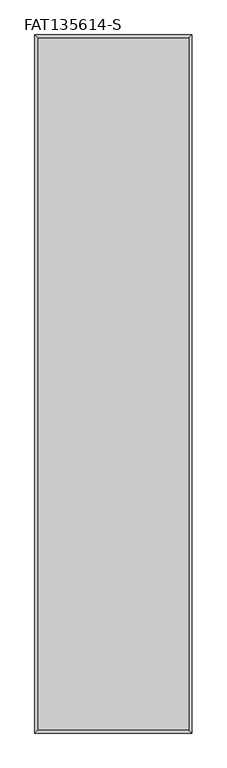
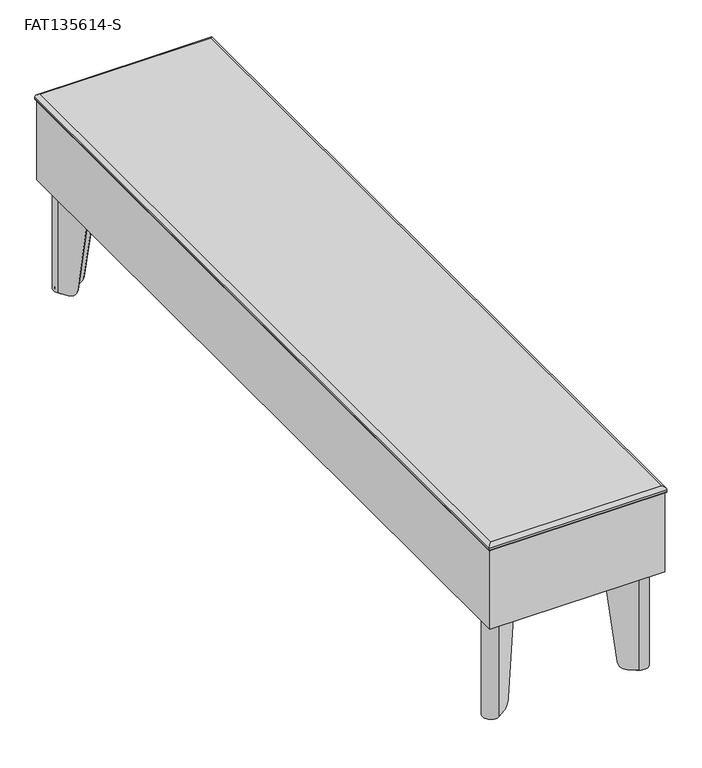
"""IFC4 building model written with IfcOpenShell, lengths in millimetres: furniture geometry, Stance_HC-Flora-Table_Straight : FAT135614-S."""

from ifc_helpers import new_model, si_unit, point, frame, frame_2d, origin, origin_with_axes, place, context, project, spatial, polyline, circle_curve, ellipse_curve, trimmed, segment, composite_curve, outline, extrude, source, transform, mapped, element, save
from ifc_brep_helpers import plane_surface, cylinder_surface, revolved_surface, advanced_brep


def fat135614_s_ff9385a6(model_context):
    return source(origin(), model_context, "Body", "SolidModel", [
        extrude(outline(composite_curve([segment(polyline([(274.1779251, -48.593371), (287.4828248, -39.2771437)]), True, "CONTINUOUS"), segment(trimmed(circle_curve(frame_2d((294.1333442, -48.7750329)), 11.5947965), [point((287.4828248, -39.2771437))], [point((303.6312333, -55.4255523))], False, "CARTESIAN"), True, "CONTINUOUS"), segment(polyline([(303.6312333, -55.4255523), (294.315006, -68.730452), (274.1779251, -48.593371)]), True, "CONTINUOUS")], self_intersect=False)), frame((0.0, 0.0, 3.175), z_axis=(0.0, 0.0, 1.0), x_axis=(1.0, 0.0, 0.0)), (0.0, 0.0, 1.0), 3.3792927),
        advanced_brep(
        [(274.3401042, -102.8613619, 193.6877233), (306.2642107, -57.26919, 193.6877233), (285.6391871, -36.6441664, 193.6877233), (240.0470178, -68.568271, 193.6877233), (241.8906556, -71.2012484, 193.6877233), (287.4828248, -39.2771437, 193.6877233), (303.6312333, -55.4255523, 193.6877233), (271.7071268, -101.0177242, 193.6877233), (274.3401042, -102.8613619, 189.1419595), (303.6312333, -55.4255523, 3.1876992), (293.5105238, -69.8793673, 3.1876992), (284.3334277, -82.9855678, 17.1280233), (287.4828248, -39.2771437, 3.1876992), (259.9228092, -58.5749494, 17.1280233), (273.0290098, -49.3978533, 3.1876992), (240.0470178, -68.568271, 189.1419334), (285.6391871, -36.6441664, 3.1876992), (270.7211121, -47.0899556, 3.1876992), (257.6149115, -56.2670517, 17.1280233), (306.2642107, -57.26919, 3.1876992), (286.6413254, -85.2934656, 17.1280233), (295.8184215, -72.187265, 3.1876992)],
        [
            (0, 1),
            (1, 2, circle_curve(frame((294.1333442, -48.7750329, 193.6877233), z_axis=(0.0, 0.0, 1.0), x_axis=(-1.0, 0.0, 0.0)), 14.8090724)),
            (2, 3),
            (3, 4),
            (4, 5),
            (5, 6, circle_curve(frame((294.1333442, -48.7750329, 193.6877233), z_axis=(0.0, 0.0, -1.0), x_axis=(-1.0, 0.0, 0.0)), 11.5947965)),
            (6, 7),
            (7, 0),
            (7, 8),
            (8, 0),
            (6, 9),
            (9, 10),
            (10, 11, ellipse_curve(frame((293.5105238, -69.8793673, 19.0626992), z_axis=(-0.8191509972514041, 0.5735779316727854, 0.0), x_axis=(-0.5735779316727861, -0.8191509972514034, 0.0)), 16.1198923, 15.875)),
            (11, 7),
            (5, 12),
            (12, 9, circle_curve(frame((294.1333442, -48.7750329, 3.1876992), z_axis=(0.0, 0.0, -1.0), x_axis=(-1.0, 0.0, 0.0)), 11.5947965)),
            (4, 13),
            (13, 14, ellipse_curve(frame((273.0290098, -49.3978533, 19.0626992), z_axis=(0.5735779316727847, -0.8191509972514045, 0.0), x_axis=(0.8191509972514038, 0.5735779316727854, 0.0)), 16.1198923, 15.875)),
            (14, 12),
            (3, 15),
            (15, 4),
            (2, 16),
            (16, 17),
            (17, 18, ellipse_curve(frame((270.7211121, -47.0899556, 19.0626992), z_axis=(-0.5735779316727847, 0.8191509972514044, 0.0), x_axis=(0.8191509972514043, 0.573577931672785, 0.0)), 16.1198923, 15.875)),
            (18, 15),
            (1, 19),
            (19, 16, circle_curve(frame((294.1333442, -48.7750329, 3.1876992), z_axis=(0.0, 0.0, 1.0), x_axis=(-1.0, 0.0, 0.0)), 14.8090724)),
            (8, 20),
            (20, 21, ellipse_curve(frame((295.8184215, -72.187265, 19.0626992), z_axis=(0.8191509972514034, -0.5735779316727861, 0.0), x_axis=(-0.5735779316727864, -0.8191509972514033, 0.0)), 16.1198923, 15.875)),
            (21, 19),
            (18, 13),
            (11, 20),
            (21, 10),
            (14, 17),
        ],
        [
            plane_surface(frame((271.7071268, -101.0177242, 193.6877233), z_axis=(0.0, 0.0, 1.0000000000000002), x_axis=(-0.8191509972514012, 0.5735779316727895, 0.0))),
            plane_surface(frame((274.3401042, -102.8613619, 193.6877233), z_axis=(-0.5735779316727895, -0.8191509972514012, 0.0), x_axis=(0.0, 0.0, -1.0))),
            plane_surface(frame((271.7071268, -101.0177242, 193.6877233), z_axis=(-0.8191509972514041, 0.5735779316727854, 0.0), x_axis=(0.0, 0.0, -1.0))),
            revolved_surface(polyline([(282.53854770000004, -48.7750329, 3.1876992), (282.53854770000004, -48.7750329, 193.6877233)]), (294.1333442, -48.7750329, 0.0), (0.0, 0.0, -1.0)),
            plane_surface(frame((287.4828248, -39.2771437, 193.6877233), z_axis=(0.5735779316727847, -0.8191509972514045, 0.0), x_axis=(0.0, 0.0, -1.0))),
            plane_surface(frame((241.8906556, -71.2012484, 193.6877233), z_axis=(-0.8191509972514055, -0.5735779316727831, 0.0), x_axis=(0.0, 0.0, -1.0))),
            plane_surface(frame((240.0470178, -68.568271, 193.6877233), z_axis=(-0.5735779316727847, 0.8191509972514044, 0.0), x_axis=(0.0, 0.0, -1.0))),
            cylinder_surface(frame((294.1333442, -48.7750329, 0.0), z_axis=(0.0, 0.0, 1.0), x_axis=(-1.0, 0.0, 0.0)), 14.8090724),
            plane_surface(frame((306.2642107, -57.26919, 193.6877233), z_axis=(0.8191509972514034, -0.5735779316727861, 0.0), x_axis=(0.0, 0.0, -1.0))),
            plane_surface(frame((251.7311084, -50.3832485, 17.1280233), z_axis=(-0.7018361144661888, -0.7018361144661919, -0.12186934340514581), x_axis=(0.7071067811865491, -0.707106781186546, 0.0))),
            plane_surface(frame((284.2214639, -17.8928931, 3.1876992), z_axis=(0.0, 0.0, -1.0), x_axis=(0.707106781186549, -0.707106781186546, 0.0))),
            cylinder_surface(frame((303.6583998, -80.0272433, 19.0626992), z_axis=(0.7071067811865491, -0.707106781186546, 0.0), x_axis=(-0.707106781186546, -0.7071067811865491, 0.0)), 15.875),
        ],
        [
            (0, [[1, 2, 3, 4, 5, 6, 7, 8]]),
            (1, [[9, 10, -8]]),
            (2, [[11, 12, 13, 14, -7]]),
            (3, [[15, 16, -11, -6]]),
            (4, [[17, 18, 19, -15, -5]]),
            (5, [[20, 21, -4]]),
            (6, [[22, 23, 24, 25, -20, -3]]),
            (7, [[26, 27, -22, -2]]),
            (8, [[-10, 28, 29, 30, -26, -1]]),
            (9, [[-17, -21, -25, 31]]),
            (9, [[-28, -9, -14, 32]]),
            (10, [[-23, -27, -30, 33, -12, -16, -19, 34]]),
            (11, [[-13, -33, -29, -32]]),
            (11, [[-24, -34, -18, -31]]),
        ],
    ),
        extrude(outline(composite_curve([segment(trimmed(circle_curve(frame_2d((292.1, -50.8)), 11.1125), [point((303.2125, -50.8))], [point((280.9875, -50.8))], False, "CARTESIAN"), True, "CONTINUOUS"), segment(trimmed(circle_curve(frame_2d((292.1, -50.8)), 11.1125), [point((280.9875, -50.8))], [point((303.2125, -50.8))], False, "CARTESIAN"), True, "CONTINUOUS")], self_intersect=False)), origin_with_axes(), (0.0, 0.0, 1.0), 3.175),
        extrude(outline(composite_curve([segment(trimmed(circle_curve(frame_2d((295.4524523, -47.4559239)), 15.8749964), [point((294.3450687, -31.6195983))], [point((311.288778, -48.5633073))], False, "CARTESIAN"), True, "CONTINUOUS"), segment(polyline([(311.288778, -48.5633073), (304.2918062, -148.6247029), (274.4414324, -178.4750713), (190.4983323, -152.4100523), (164.4332978, -68.4669439), (194.2836699, -38.6165718), (294.3450687, -31.6195983)]), True, "CONTINUOUS")], self_intersect=False)), frame((0.0, 0.0, 193.6877233), z_axis=(0.0, 0.0, 1.0), x_axis=(1.0, 0.0, 0.0)), (0.0, 0.0, 1.0), 4.7751809),
        extrude(outline(composite_curve([segment(polyline([(274.1779251, -1399.206629), (294.315006, -1379.069548), (303.6312333, -1392.3744477)]), True, "CONTINUOUS"), segment(trimmed(circle_curve(frame_2d((294.1333442, -1399.0249671)), 11.5947965), [point((303.6312333, -1392.3744477))], [point((287.4828248, -1408.5228563))], False, "CARTESIAN"), True, "CONTINUOUS"), segment(polyline([(287.4828248, -1408.5228563), (274.1779251, -1399.206629)]), True, "CONTINUOUS")], self_intersect=False)), frame((0.0, 0.0, 3.175), z_axis=(0.0, 0.0, 1.0), x_axis=(1.0, 0.0, 0.0)), (0.0, 0.0, 1.0), 3.3792927),
        advanced_brep(
        [(274.3401042, -1344.9386381, 193.6877233), (271.7071268, -1346.7822758, 193.6877233), (303.6312333, -1392.3744477, 193.6877233), (287.4828248, -1408.5228563, 193.6877233), (241.8906556, -1376.5987516, 193.6877233), (240.0470178, -1379.231729, 193.6877233), (285.6391871, -1411.1558336, 193.6877233), (306.2642107, -1390.53081, 193.6877233), (274.3401042, -1344.9386381, 189.1419595), (284.3334277, -1364.8144322, 17.1280233), (293.5105238, -1377.9206327, 3.1876992), (303.6312333, -1392.3744477, 3.1876992), (287.4828248, -1408.5228563, 3.1876992), (273.0290098, -1398.4021467, 3.1876992), (259.9228092, -1389.2250506, 17.1280233), (240.0470178, -1379.231729, 189.1419334), (257.6149115, -1391.5329483, 17.1280233), (270.7211121, -1400.7100444, 3.1876992), (285.6391871, -1411.1558336, 3.1876992), (306.2642107, -1390.53081, 3.1876992), (295.8184215, -1375.612735, 3.1876992), (286.6413254, -1362.5065344, 17.1280233)],
        [
            (0, 1),
            (1, 2),
            (2, 3, circle_curve(frame((294.1333442, -1399.0249671, 193.6877233), z_axis=(0.0, 0.0, -1.0), x_axis=(-1.0, 0.0, 0.0)), 11.5947965)),
            (3, 4),
            (4, 5),
            (5, 6),
            (6, 7, circle_curve(frame((294.1333442, -1399.0249671, 193.6877233), z_axis=(0.0, 0.0, 1.0), x_axis=(-1.0, 0.0, 0.0)), 14.8090724)),
            (7, 0),
            (0, 8),
            (8, 1),
            (1, 9),
            (9, 10, ellipse_curve(frame((293.5105238, -1377.9206327, 19.0626992), z_axis=(-0.8191509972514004, -0.5735779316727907, 0.0), x_axis=(-0.5735779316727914, 0.8191509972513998, 0.0)), 16.1198923, 15.875)),
            (10, 11),
            (11, 2),
            (11, 12, circle_curve(frame((294.1333442, -1399.0249671, 3.1876992), z_axis=(0.0, 0.0, -1.0), x_axis=(-1.0, 0.0, 0.0)), 11.5947965)),
            (12, 3),
            (12, 13),
            (13, 14, ellipse_curve(frame((273.0290098, -1398.4021467, 19.0626992), z_axis=(0.5735779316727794, 0.8191509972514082, 0.0), x_axis=(0.8191509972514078, -0.5735779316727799, 0.0)), 16.1198923, 15.875)),
            (14, 4),
            (4, 15),
            (15, 5),
            (15, 16),
            (16, 17, ellipse_curve(frame((270.7211121, -1400.7100444, 19.0626992), z_axis=(-0.5735779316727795, -0.8191509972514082, 0.0), x_axis=(0.8191509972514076, -0.5735779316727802, 0.0)), 16.1198923, 15.875)),
            (17, 18),
            (18, 6),
            (18, 19, circle_curve(frame((294.1333442, -1399.0249671, 3.1876992), z_axis=(0.0, 0.0, 1.0), x_axis=(-1.0, 0.0, 0.0)), 14.8090724)),
            (19, 7),
            (19, 20),
            (20, 21, ellipse_curve(frame((295.8184215, -1375.612735, 19.0626992), z_axis=(0.8191509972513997, 0.5735779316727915, 0.0), x_axis=(-0.573577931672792, 0.8191509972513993, 0.0)), 16.1198923, 15.875)),
            (21, 8),
            (14, 16),
            (21, 9),
            (17, 13),
            (10, 20),
        ],
        [
            plane_surface(frame((271.7071268, -1346.7822758, 193.6877233), z_axis=(0.0, 0.0, 0.9999999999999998), x_axis=(-0.8191509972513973, -0.5735779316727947, 0.0))),
            plane_surface(frame((274.3401042, -1344.9386381, 193.6877233), z_axis=(-0.5735779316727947, 0.8191509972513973, 0.0), x_axis=(0.0, 0.0, -1.0))),
            plane_surface(frame((271.7071268, -1346.7822758, 193.6877233), z_axis=(-0.8191509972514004, -0.5735779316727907, 0.0), x_axis=(0.0, 0.0, -1.0))),
            revolved_surface(polyline([(282.53854770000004, -1399.0249671, 3.1876992), (282.53854770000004, -1399.0249671, 193.6877233)]), (294.1333442, -1399.0249671, 0.0), (0.0, 0.0, -1.0)),
            plane_surface(frame((287.4828248, -1408.5228563, 193.6877233), z_axis=(0.5735779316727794, 0.8191509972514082, 0.0), x_axis=(0.0, 0.0, -1.0))),
            plane_surface(frame((241.8906556, -1376.5987516, 193.6877233), z_axis=(-0.8191509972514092, 0.5735779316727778, 0.0), x_axis=(0.0, 0.0, -1.0))),
            plane_surface(frame((240.0470178, -1379.231729, 193.6877233), z_axis=(-0.5735779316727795, -0.8191509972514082, 0.0), x_axis=(0.0, 0.0, -1.0))),
            cylinder_surface(frame((294.1333442, -1399.0249671, 0.0), z_axis=(0.0, 0.0, 1.0), x_axis=(-1.0, 0.0, 0.0)), 14.8090724),
            plane_surface(frame((306.2642107, -1390.53081, 193.6877233), z_axis=(0.8191509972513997, 0.5735779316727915, 0.0), x_axis=(0.0, 0.0, -1.0))),
            plane_surface(frame((251.7311084, -1397.4167515, 17.1280233), z_axis=(-0.7018361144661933, 0.7018361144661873, -0.12186934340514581), x_axis=(0.7071067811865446, 0.7071067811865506, 0.0))),
            plane_surface(frame((284.2214639, -1429.9071069, 3.1876992), z_axis=(0.0, 0.0, -1.0), x_axis=(0.7071067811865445, 0.7071067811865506, 0.0))),
            cylinder_surface(frame((303.6583998, -1367.7727567, 19.0626992), z_axis=(0.7071067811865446, 0.7071067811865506, 0.0), x_axis=(-0.7071067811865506, 0.7071067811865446, 0.0)), 15.875),
        ],
        [
            (0, [[1, 2, 3, 4, 5, 6, 7, 8]]),
            (1, [[-1, 9, 10]]),
            (2, [[-2, 11, 12, 13, 14]]),
            (3, [[-3, -14, 15, 16]]),
            (4, [[-4, -16, 17, 18, 19]]),
            (5, [[-5, 20, 21]]),
            (6, [[-6, -21, 22, 23, 24, 25]]),
            (7, [[-7, -25, 26, 27]]),
            (8, [[-8, -27, 28, 29, 30, -9]]),
            (9, [[31, -22, -20, -19]]),
            (9, [[32, -11, -10, -30]]),
            (10, [[33, -17, -15, -13, 34, -28, -26, -24]]),
            (11, [[-31, -18, -33, -23]]),
            (11, [[-32, -29, -34, -12]]),
        ],
    ),
        extrude(outline(composite_curve([segment(trimmed(circle_curve(frame_2d((292.1, -1397.0)), 11.1125), [point((303.2125, -1397.0))], [point((280.9875, -1397.0))], False, "CARTESIAN"), True, "CONTINUOUS"), segment(trimmed(circle_curve(frame_2d((292.1, -1397.0)), 11.1125), [point((280.9875, -1397.0))], [point((303.2125, -1397.0))], False, "CARTESIAN"), True, "CONTINUOUS")], self_intersect=False)), origin_with_axes(), (0.0, 0.0, 1.0), 3.175),
        extrude(outline(composite_curve([segment(polyline([(294.3450687, -1416.1804017), (194.2836699, -1409.1834282), (164.4332978, -1379.3330561), (190.4983323, -1295.3899477), (274.4414324, -1269.3249287), (304.2918062, -1299.1752971), (311.288778, -1399.2366927)]), True, "CONTINUOUS"), segment(trimmed(circle_curve(frame_2d((295.4524523, -1400.3440761)), 15.8749964), [point((311.288778, -1399.2366927))], [point((294.3450687, -1416.1804017))], False, "CARTESIAN"), True, "CONTINUOUS")], self_intersect=False)), frame((0.0, 0.0, 193.6877233), z_axis=(0.0, 0.0, 1.0), x_axis=(1.0, 0.0, 0.0)), (0.0, 0.0, 1.0), 4.7751809),
        extrude(outline(composite_curve([segment(polyline([(43.3220749, -1399.206629), (30.0171752, -1408.5228563)]), True, "CONTINUOUS"), segment(trimmed(circle_curve(frame_2d((23.3666558, -1399.0249671)), 11.5947965), [point((30.0171752, -1408.5228563))], [point((13.8687667, -1392.3744477))], False, "CARTESIAN"), True, "CONTINUOUS"), segment(polyline([(13.8687667, -1392.3744477), (23.184994, -1379.069548), (43.3220749, -1399.206629)]), True, "CONTINUOUS")], self_intersect=False)), frame((0.0, 0.0, 3.175), z_axis=(0.0, 0.0, 1.0), x_axis=(1.0, 0.0, 0.0)), (0.0, 0.0, 1.0), 3.3792927),
        advanced_brep(
        [(43.1598958, -1344.9386381, 193.6877233), (11.2357893, -1390.53081, 193.6877233), (31.8608129, -1411.1558336, 193.6877233), (77.4529822, -1379.231729, 193.6877233), (75.6093444, -1376.5987516, 193.6877233), (30.0171752, -1408.5228563, 193.6877233), (13.8687667, -1392.3744477, 193.6877233), (45.7928732, -1346.7822758, 193.6877233), (43.1598958, -1344.9386381, 189.1419595), (13.8687667, -1392.3744477, 3.1876992), (23.9894762, -1377.9206327, 3.1876992), (33.1665723, -1364.8144322, 17.1280233), (30.0171752, -1408.5228563, 3.1876992), (57.5771908, -1389.2250506, 17.1280233), (44.4709902, -1398.4021467, 3.1876992), (77.4529822, -1379.231729, 189.1419334), (31.8608129, -1411.1558336, 3.1876992), (46.7788879, -1400.7100444, 3.1876992), (59.8850885, -1391.5329483, 17.1280233), (11.2357893, -1390.53081, 3.1876992), (30.8586746, -1362.5065344, 17.1280233), (21.6815785, -1375.612735, 3.1876992)],
        [
            (0, 1),
            (1, 2, circle_curve(frame((23.3666558, -1399.0249671, 193.6877233), z_axis=(0.0, 0.0, 1.0), x_axis=(1.0, 0.0, 0.0)), 14.8090724)),
            (2, 3),
            (3, 4),
            (4, 5),
            (5, 6, circle_curve(frame((23.3666558, -1399.0249671, 193.6877233), z_axis=(0.0, 0.0, -1.0), x_axis=(1.0, 0.0, 0.0)), 11.5947965)),
            (6, 7),
            (7, 0),
            (7, 8),
            (8, 0),
            (6, 9),
            (9, 10),
            (10, 11, ellipse_curve(frame((23.9894762, -1377.9206327, 19.0626992), z_axis=(0.8191509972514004, -0.5735779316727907, 0.0), x_axis=(0.5735779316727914, 0.8191509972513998, 0.0)), 16.1198923, 15.875)),
            (11, 7),
            (5, 12),
            (12, 9, circle_curve(frame((23.3666558, -1399.0249671, 3.1876992), z_axis=(0.0, 0.0, -1.0), x_axis=(1.0, 0.0, 0.0)), 11.5947965)),
            (4, 13),
            (13, 14, ellipse_curve(frame((44.4709902, -1398.4021467, 19.0626992), z_axis=(-0.5735779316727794, 0.8191509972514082, 0.0), x_axis=(-0.8191509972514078, -0.5735779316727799, 0.0)), 16.1198923, 15.875)),
            (14, 12),
            (3, 15),
            (15, 4),
            (2, 16),
            (16, 17),
            (17, 18, ellipse_curve(frame((46.7788879, -1400.7100444, 19.0626992), z_axis=(0.5735779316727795, -0.8191509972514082, 0.0), x_axis=(-0.8191509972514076, -0.5735779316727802, 0.0)), 16.1198923, 15.875)),
            (18, 15),
            (1, 19),
            (19, 16, circle_curve(frame((23.3666558, -1399.0249671, 3.1876992), z_axis=(0.0, 0.0, 1.0), x_axis=(1.0, 0.0, 0.0)), 14.8090724)),
            (8, 20),
            (20, 21, ellipse_curve(frame((21.6815785, -1375.612735, 19.0626992), z_axis=(-0.8191509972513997, 0.5735779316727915, 0.0), x_axis=(0.573577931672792, 0.8191509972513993, 0.0)), 16.1198923, 15.875)),
            (21, 19),
            (18, 13),
            (11, 20),
            (21, 10),
            (14, 17),
        ],
        [
            plane_surface(frame((45.7928732, -1346.7822758, 193.6877233), z_axis=(0.0, 0.0, 0.9999999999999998), x_axis=(0.8191509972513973, -0.5735779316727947, 0.0))),
            plane_surface(frame((43.1598958, -1344.9386381, 193.6877233), z_axis=(0.5735779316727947, 0.8191509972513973, 0.0), x_axis=(0.0, 0.0, -1.0))),
            plane_surface(frame((45.7928732, -1346.7822758, 193.6877233), z_axis=(0.8191509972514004, -0.5735779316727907, 0.0), x_axis=(0.0, 0.0, -1.0))),
            revolved_surface(polyline([(34.9614523, -1399.0249671, 3.1876992), (34.9614523, -1399.0249671, 193.6877233)]), (23.3666558, -1399.0249671, 0.0), (0.0, 0.0, -1.0)),
            plane_surface(frame((30.0171752, -1408.5228563, 193.6877233), z_axis=(-0.5735779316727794, 0.8191509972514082, 0.0), x_axis=(0.0, 0.0, -1.0))),
            plane_surface(frame((75.6093444, -1376.5987516, 193.6877233), z_axis=(0.8191509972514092, 0.5735779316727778, 0.0), x_axis=(0.0, 0.0, -1.0))),
            plane_surface(frame((77.4529822, -1379.231729, 193.6877233), z_axis=(0.5735779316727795, -0.8191509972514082, 0.0), x_axis=(0.0, 0.0, -1.0))),
            cylinder_surface(frame((23.3666558, -1399.0249671, 0.0), z_axis=(0.0, 0.0, 1.0), x_axis=(1.0, 0.0, 0.0)), 14.8090724),
            plane_surface(frame((11.2357893, -1390.53081, 193.6877233), z_axis=(-0.8191509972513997, 0.5735779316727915, 0.0), x_axis=(0.0, 0.0, -1.0))),
            plane_surface(frame((65.7688916, -1397.4167515, 17.1280233), z_axis=(0.7018361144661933, 0.7018361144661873, -0.12186934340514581), x_axis=(-0.7071067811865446, 0.7071067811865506, 0.0))),
            plane_surface(frame((33.2785361, -1429.9071069, 3.1876992), z_axis=(0.0, 0.0, -1.0), x_axis=(-0.7071067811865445, 0.7071067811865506, 0.0))),
            cylinder_surface(frame((13.8416002, -1367.7727567, 19.0626992), z_axis=(-0.7071067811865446, 0.7071067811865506, 0.0), x_axis=(0.7071067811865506, 0.7071067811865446, 0.0)), 15.875),
        ],
        [
            (0, [[1, 2, 3, 4, 5, 6, 7, 8]]),
            (1, [[9, 10, -8]]),
            (2, [[11, 12, 13, 14, -7]]),
            (3, [[15, 16, -11, -6]]),
            (4, [[17, 18, 19, -15, -5]]),
            (5, [[20, 21, -4]]),
            (6, [[22, 23, 24, 25, -20, -3]]),
            (7, [[26, 27, -22, -2]]),
            (8, [[-10, 28, 29, 30, -26, -1]]),
            (9, [[-17, -21, -25, 31]]),
            (9, [[-28, -9, -14, 32]]),
            (10, [[-23, -27, -30, 33, -12, -16, -19, 34]]),
            (11, [[-13, -33, -29, -32]]),
            (11, [[-24, -34, -18, -31]]),
        ],
    ),
        extrude(outline(composite_curve([segment(trimmed(circle_curve(frame_2d((25.4, -1397.0)), 11.1125), [point((14.2875, -1397.0))], [point((36.5125, -1397.0))], False, "CARTESIAN"), True, "CONTINUOUS"), segment(trimmed(circle_curve(frame_2d((25.4, -1397.0)), 11.1125), [point((36.5125, -1397.0))], [point((14.2875, -1397.0))], False, "CARTESIAN"), True, "CONTINUOUS")], self_intersect=False)), origin_with_axes(), (0.0, 0.0, 1.0), 3.175),
        extrude(outline(composite_curve([segment(trimmed(circle_curve(frame_2d((22.0475477, -1400.3440761)), 15.8749964), [point((23.1549313, -1416.1804017))], [point((6.211222, -1399.2366927))], False, "CARTESIAN"), True, "CONTINUOUS"), segment(polyline([(6.211222, -1399.2366927), (13.2081938, -1299.1752971), (43.0585676, -1269.3249287), (127.0016677, -1295.3899477), (153.0667022, -1379.3330561), (123.2163301, -1409.1834282), (23.1549313, -1416.1804017)]), True, "CONTINUOUS")], self_intersect=False)), frame((0.0, 0.0, 193.6877233), z_axis=(0.0, 0.0, 1.0), x_axis=(1.0, 0.0, 0.0)), (0.0, 0.0, 1.0), 4.7751809),
        extrude(outline(composite_curve([segment(polyline([(43.3220749, -48.593371), (23.184994, -68.730452), (13.8687667, -55.4255523)]), True, "CONTINUOUS"), segment(trimmed(circle_curve(frame_2d((23.3666558, -48.7750329)), 11.5947965), [point((13.8687667, -55.4255523))], [point((30.0171752, -39.2771437))], False, "CARTESIAN"), True, "CONTINUOUS"), segment(polyline([(30.0171752, -39.2771437), (43.3220749, -48.593371)]), True, "CONTINUOUS")], self_intersect=False)), frame((0.0, 0.0, 3.175), z_axis=(0.0, 0.0, 1.0), x_axis=(1.0, 0.0, 0.0)), (0.0, 0.0, 1.0), 3.3792927),
        advanced_brep(
        [(43.1598958, -102.8613619, 193.6877233), (45.7928732, -101.0177242, 193.6877233), (13.8687667, -55.4255523, 193.6877233), (30.0171752, -39.2771437, 193.6877233), (75.6093444, -71.2012484, 193.6877233), (77.4529822, -68.568271, 193.6877233), (31.8608129, -36.6441664, 193.6877233), (11.2357893, -57.26919, 193.6877233), (43.1598958, -102.8613619, 189.1419595), (33.1665723, -82.9855678, 17.1280233), (23.9894762, -69.8793673, 3.1876992), (13.8687667, -55.4255523, 3.1876992), (30.0171752, -39.2771437, 3.1876992), (44.4709902, -49.3978533, 3.1876992), (57.5771908, -58.5749494, 17.1280233), (77.4529822, -68.568271, 189.1419334), (59.8850885, -56.2670517, 17.1280233), (46.7788879, -47.0899556, 3.1876992), (31.8608129, -36.6441664, 3.1876992), (11.2357893, -57.26919, 3.1876992), (21.6815785, -72.187265, 3.1876992), (30.8586746, -85.2934656, 17.1280233)],
        [
            (0, 1),
            (1, 2),
            (2, 3, circle_curve(frame((23.3666558, -48.7750329, 193.6877233), z_axis=(0.0, 0.0, -1.0), x_axis=(1.0, 0.0, 0.0)), 11.5947965)),
            (3, 4),
            (4, 5),
            (5, 6),
            (6, 7, circle_curve(frame((23.3666558, -48.7750329, 193.6877233), z_axis=(0.0, 0.0, 1.0), x_axis=(1.0, 0.0, 0.0)), 14.8090724)),
            (7, 0),
            (0, 8),
            (8, 1),
            (1, 9),
            (9, 10, ellipse_curve(frame((23.9894762, -69.8793673, 19.0626992), z_axis=(0.8191509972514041, 0.5735779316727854, 0.0), x_axis=(0.5735779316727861, -0.8191509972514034, 0.0)), 16.1198923, 15.875)),
            (10, 11),
            (11, 2),
            (11, 12, circle_curve(frame((23.3666558, -48.7750329, 3.1876992), z_axis=(0.0, 0.0, -1.0), x_axis=(1.0, 0.0, 0.0)), 11.5947965)),
            (12, 3),
            (12, 13),
            (13, 14, ellipse_curve(frame((44.4709902, -49.3978533, 19.0626992), z_axis=(-0.5735779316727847, -0.8191509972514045, 0.0), x_axis=(-0.8191509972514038, 0.5735779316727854, 0.0)), 16.1198923, 15.875)),
            (14, 4),
            (4, 15),
            (15, 5),
            (15, 16),
            (16, 17, ellipse_curve(frame((46.7788879, -47.0899556, 19.0626992), z_axis=(0.5735779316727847, 0.8191509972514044, 0.0), x_axis=(-0.8191509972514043, 0.573577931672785, 0.0)), 16.1198923, 15.875)),
            (17, 18),
            (18, 6),
            (18, 19, circle_curve(frame((23.3666558, -48.7750329, 3.1876992), z_axis=(0.0, 0.0, 1.0), x_axis=(1.0, 0.0, 0.0)), 14.8090724)),
            (19, 7),
            (19, 20),
            (20, 21, ellipse_curve(frame((21.6815785, -72.187265, 19.0626992), z_axis=(-0.8191509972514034, -0.5735779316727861, 0.0), x_axis=(0.5735779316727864, -0.8191509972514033, 0.0)), 16.1198923, 15.875)),
            (21, 8),
            (14, 16),
            (21, 9),
            (17, 13),
            (10, 20),
        ],
        [
            plane_surface(frame((45.7928732, -101.0177242, 193.6877233), z_axis=(0.0, 0.0, 1.0000000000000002), x_axis=(0.8191509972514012, 0.5735779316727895, 0.0))),
            plane_surface(frame((43.1598958, -102.8613619, 193.6877233), z_axis=(0.5735779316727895, -0.8191509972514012, 0.0), x_axis=(0.0, 0.0, -1.0))),
            plane_surface(frame((45.7928732, -101.0177242, 193.6877233), z_axis=(0.8191509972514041, 0.5735779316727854, 0.0), x_axis=(0.0, 0.0, -1.0))),
            revolved_surface(polyline([(34.9614523, -48.7750329, 3.1876992), (34.9614523, -48.7750329, 193.6877233)]), (23.3666558, -48.7750329, 0.0), (0.0, 0.0, -1.0)),
            plane_surface(frame((30.0171752, -39.2771437, 193.6877233), z_axis=(-0.5735779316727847, -0.8191509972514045, 0.0), x_axis=(0.0, 0.0, -1.0))),
            plane_surface(frame((75.6093444, -71.2012484, 193.6877233), z_axis=(0.8191509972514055, -0.5735779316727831, 0.0), x_axis=(0.0, 0.0, -1.0))),
            plane_surface(frame((77.4529822, -68.568271, 193.6877233), z_axis=(0.5735779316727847, 0.8191509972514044, 0.0), x_axis=(0.0, 0.0, -1.0))),
            cylinder_surface(frame((23.3666558, -48.7750329, 0.0), z_axis=(0.0, 0.0, 1.0), x_axis=(1.0, 0.0, 0.0)), 14.8090724),
            plane_surface(frame((11.2357893, -57.26919, 193.6877233), z_axis=(-0.8191509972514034, -0.5735779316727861, 0.0), x_axis=(0.0, 0.0, -1.0))),
            plane_surface(frame((65.7688916, -50.3832485, 17.1280233), z_axis=(0.7018361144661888, -0.7018361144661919, -0.12186934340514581), x_axis=(-0.7071067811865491, -0.707106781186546, 0.0))),
            plane_surface(frame((33.2785361, -17.8928931, 3.1876992), z_axis=(0.0, 0.0, -1.0), x_axis=(-0.707106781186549, -0.707106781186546, 0.0))),
            cylinder_surface(frame((13.8416002, -80.0272433, 19.0626992), z_axis=(-0.7071067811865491, -0.707106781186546, 0.0), x_axis=(0.707106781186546, -0.7071067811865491, 0.0)), 15.875),
        ],
        [
            (0, [[1, 2, 3, 4, 5, 6, 7, 8]]),
            (1, [[-1, 9, 10]]),
            (2, [[-2, 11, 12, 13, 14]]),
            (3, [[-3, -14, 15, 16]]),
            (4, [[-4, -16, 17, 18, 19]]),
            (5, [[-5, 20, 21]]),
            (6, [[-6, -21, 22, 23, 24, 25]]),
            (7, [[-7, -25, 26, 27]]),
            (8, [[-8, -27, 28, 29, 30, -9]]),
            (9, [[31, -22, -20, -19]]),
            (9, [[32, -11, -10, -30]]),
            (10, [[33, -17, -15, -13, 34, -28, -26, -24]]),
            (11, [[-31, -18, -33, -23]]),
            (11, [[-32, -29, -34, -12]]),
        ],
    ),
        extrude(outline(composite_curve([segment(trimmed(circle_curve(frame_2d((25.4, -50.8)), 11.1125), [point((14.2875, -50.8))], [point((36.5125, -50.8))], False, "CARTESIAN"), True, "CONTINUOUS"), segment(trimmed(circle_curve(frame_2d((25.4, -50.8)), 11.1125), [point((36.5125, -50.8))], [point((14.2875, -50.8))], False, "CARTESIAN"), True, "CONTINUOUS")], self_intersect=False)), origin_with_axes(), (0.0, 0.0, 1.0), 3.175),
        extrude(outline(composite_curve([segment(polyline([(23.1549313, -31.6195983), (123.2163301, -38.6165718), (153.0667022, -68.4669439), (127.0016677, -152.4100523), (43.0585676, -178.4750713), (13.2081938, -148.6247029), (6.211222, -48.5633073)]), True, "CONTINUOUS"), segment(trimmed(circle_curve(frame_2d((22.0475477, -47.4559239)), 15.8749964), [point((6.211222, -48.5633073))], [point((23.1549313, -31.6195983))], False, "CARTESIAN"), True, "CONTINUOUS")], self_intersect=False)), frame((0.0, 0.0, 193.6877233), z_axis=(0.0, 0.0, 1.0), x_axis=(1.0, 0.0, 0.0)), (0.0, 0.0, 1.0), 4.7751809),
        advanced_brep(
        [(313.5376045, -1432.7251045, 361.2210174), (313.5376045, -15.0748955, 361.2210174), (3.9623955, -15.0748955, 361.2210174), (3.9623955, -1432.7251045, 361.2210174), (318.087372, -10.525128, 349.249991), (318.087372, -1437.274872, 349.249991), (-0.587372, -1437.274872, 349.249991), (-0.587372, -10.525128, 349.249991), (319.8876045, -8.7248955, 354.888882), (319.8876045, -1439.0751045, 354.888882), (319.8876045, -1439.0751045, 350.9190376), (319.8876045, -8.7248955, 350.9190376), (-2.3876045, -1439.0751045, 354.888882), (-2.3876045, -1439.0751045, 350.9190376), (-2.3876045, -8.7248955, 354.888882), (-2.3876045, -8.7248955, 350.9190376)],
        [
            (0, 1),
            (1, 2),
            (2, 3),
            (3, 0),
            (4, 5),
            (5, 6),
            (6, 7),
            (7, 4),
            (8, 1, ellipse_curve(frame((313.5376045, -15.0748955, 354.8709922), z_axis=(0.7071067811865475, -0.7071067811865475, 0.0), x_axis=(0.7071067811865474, 0.7071067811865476, 0.0)), 8.9802918, 6.3500252)),
            (0, 9, ellipse_curve(frame((313.5376045, -1432.7251045, 354.8709922), z_axis=(0.7071067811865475, 0.7071067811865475, 0.0), x_axis=(-0.7071067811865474, 0.7071067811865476, 0.0)), 8.9802918, 6.3500252)),
            (9, 8),
            (9, 10),
            (10, 11),
            (11, 8),
            (10, 5, ellipse_curve(frame((318.2137781, -1437.4012781, 350.9190376), z_axis=(0.7071067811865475, 0.7071067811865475, 0.0), x_axis=(-0.7071067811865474, 0.7071067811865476, 0.0)), 2.3671481, 1.6738265)),
            (4, 11, ellipse_curve(frame((318.2137781, -10.3987219, 350.9190376), z_axis=(0.7071067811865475, -0.7071067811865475, 0.0), x_axis=(0.7071067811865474, 0.7071067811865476, 0.0)), 2.3671481, 1.6738265)),
            (3, 12, ellipse_curve(frame((3.9623955, -1432.7251045, 354.8709922), z_axis=(0.7071067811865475, -0.7071067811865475, 0.0), x_axis=(0.7071067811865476, 0.7071067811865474, 0.0)), 8.9802918, 6.3500252)),
            (12, 9),
            (12, 13),
            (13, 10),
            (13, 6, ellipse_curve(frame((-0.7137781, -1437.4012781, 350.9190376), z_axis=(0.7071067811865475, -0.7071067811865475, 0.0), x_axis=(0.7071067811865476, 0.7071067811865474, 0.0)), 2.3671481, 1.6738265)),
            (2, 14, ellipse_curve(frame((3.9623955, -15.0748955, 354.8709922), z_axis=(-0.7071067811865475, -0.7071067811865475, 0.0), x_axis=(0.7071067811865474, -0.7071067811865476, 0.0)), 8.9802918, 6.3500252)),
            (14, 12),
            (14, 15),
            (15, 13),
            (15, 7, ellipse_curve(frame((-0.7137781, -10.3987219, 350.9190376), z_axis=(-0.7071067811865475, -0.7071067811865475, 0.0), x_axis=(0.7071067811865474, -0.7071067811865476, 0.0)), 2.3671481, 1.6738265)),
            (8, 14),
            (11, 15),
        ],
        [
            plane_surface(frame((3.9623955, -15.0748955, 361.2210174), z_axis=(0.0, 0.0, 1.0), x_axis=(0.0, -1.0, 0.0))),
            plane_surface(frame((3.9623955, -15.0748955, 349.249991), z_axis=(0.0, 0.0, -1.0), x_axis=(0.0, 1.0, 0.0))),
            cylinder_surface(frame((313.5376045, -11.1125, 354.8709922), z_axis=(0.0, 1.0, 0.0), x_axis=(1.0, 0.0, 0.0)), 6.3500252),
            plane_surface(frame((319.8876045, -8.7248955, 354.888882), z_axis=(1.0, 0.0, 0.0), x_axis=(0.0, -1.0, 0.0))),
            cylinder_surface(frame((318.2137781, -11.1125, 350.9190376), z_axis=(0.0, 1.0, 0.0), x_axis=(1.0, 0.0, 0.0)), 1.6738265),
            cylinder_surface(frame((317.5, -1432.7251045, 354.8709922), z_axis=(1.0, 0.0, 0.0), x_axis=(0.0, -1.0, 0.0)), 6.3500252),
            plane_surface(frame((319.8876045, -1439.0751045, 354.888882), z_axis=(0.0, -1.0, 0.0), x_axis=(-1.0, 0.0, 0.0))),
            cylinder_surface(frame((317.5, -1437.4012781, 350.9190376), z_axis=(1.0, 0.0, 0.0), x_axis=(0.0, -1.0, 0.0)), 1.6738265),
            cylinder_surface(frame((3.9623955, -1436.6875, 354.8709922), z_axis=(0.0, -1.0, 0.0), x_axis=(-1.0, 0.0, 0.0)), 6.3500252),
            plane_surface(frame((-2.3876045, -1439.0751045, 354.888882), z_axis=(-1.0, 0.0, 0.0), x_axis=(0.0, 1.0, 0.0))),
            cylinder_surface(frame((-0.7137781, -1436.6875, 350.9190376), z_axis=(0.0, -1.0, 0.0), x_axis=(-1.0, 0.0, 0.0)), 1.6738265),
            cylinder_surface(frame((0.0, -15.0748955, 354.8709922), z_axis=(-1.0, 0.0, 0.0), x_axis=(0.0, 1.0, 0.0)), 6.3500252),
            plane_surface(frame((-2.3876045, -8.7248955, 354.888882), z_axis=(0.0, 1.0, 0.0), x_axis=(1.0, 0.0, 0.0))),
            cylinder_surface(frame((0.0, -10.3987219, 350.9190376), z_axis=(-1.0, 0.0, 0.0), x_axis=(0.0, 1.0, 0.0)), 1.6738265),
        ],
        [
            (0, [[1, 2, 3, 4]]),
            (1, [[5, 6, 7, 8]]),
            (2, [[9, -1, 10, 11]]),
            (3, [[-11, 12, 13, 14]]),
            (4, [[-13, 15, -5, 16]]),
            (5, [[-10, -4, 17, 18]]),
            (6, [[-12, -18, 19, 20]]),
            (7, [[-15, -20, 21, -6]]),
            (8, [[-17, -3, 22, 23]]),
            (9, [[-19, -23, 24, 25]]),
            (10, [[-21, -25, 26, -7]]),
            (11, [[-9, 27, -22, -2]]),
            (12, [[-14, 28, -24, -27]]),
            (13, [[-16, -8, -26, -28]]),
        ],
    ),
        extrude(outline(polyline([(317.5, -11.1125), (317.5, -1436.6875), (0.0, -1436.6875), (0.0, -11.1125), (317.5, -11.1125)])), frame((0.0, 0.0, 196.85), z_axis=(0.0, 0.0, 1.0), x_axis=(1.0, 0.0, 0.0)), (0.0, 0.0, 1.0), 152.399991),
    ])


if __name__ == "__main__":
    model = new_model("IFC4")
    model_context = context("Model", 3, world=origin())
    ifc_project = project(units=[si_unit("LENGTHUNIT", "METRE", prefix="MILLI")], contexts=[model_context])
    site = spatial("IfcSite", under=ifc_project)
    building = spatial("IfcBuilding", under=site)
    placement = place(None, origin())
    fat135614_s_shape = fat135614_s_ff9385a6(model_context)
    element("IfcFurniture", 1, ObjectType="Stance_HC-Flora-Table_Straight : FAT135614-S", at=placement, inside=building, context=model_context, shape_type="MappedRepresentation", body=[
        mapped(fat135614_s_shape, transform((0.0, 0.0, 0.0), x_axis=(1.0, 0.0, 0.0), y_axis=(0.0, 1.0, 0.0), z_axis=(0.0, 0.0, 1.0))),
    ])
    save(model, "model.ifc")
